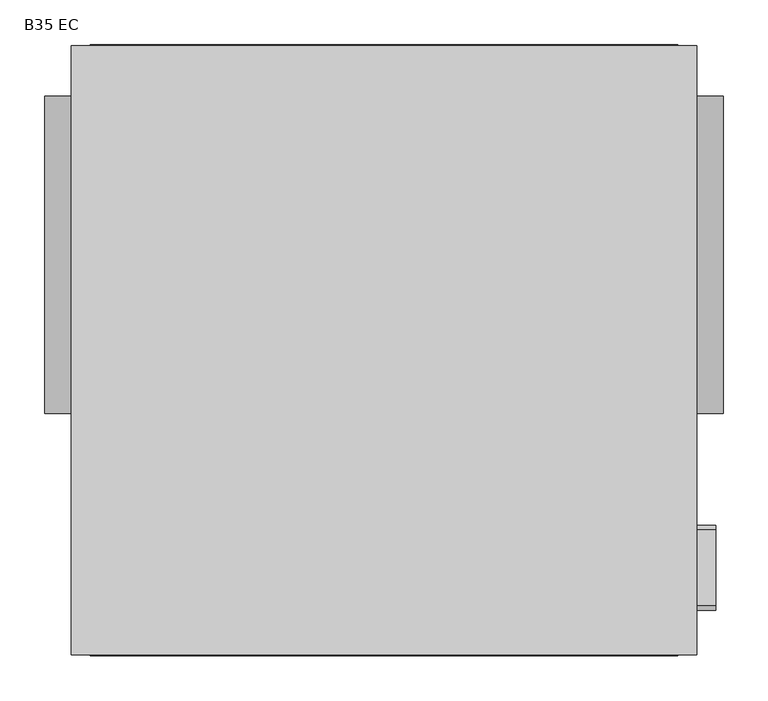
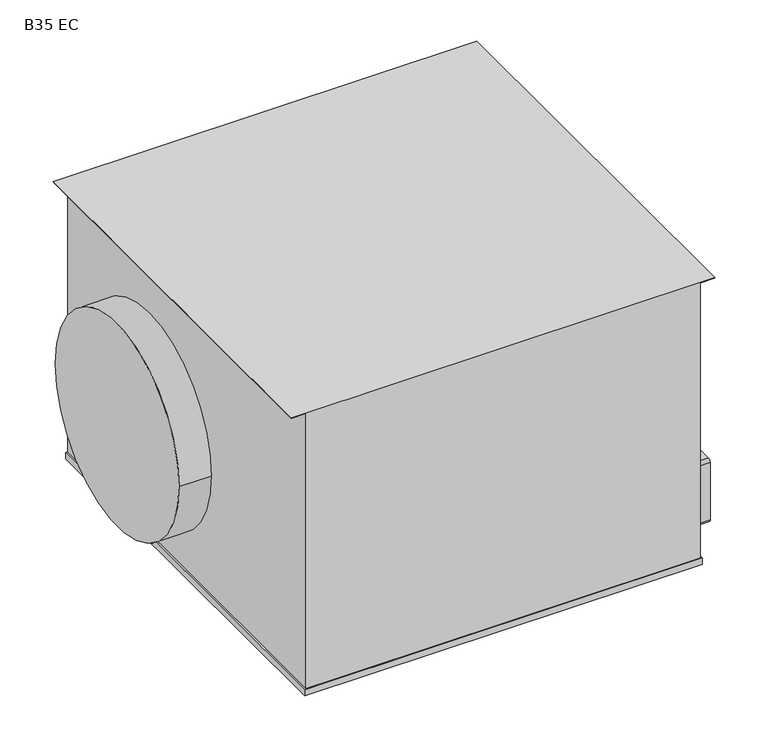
"""IFC4 building model written with IfcOpenShell, lengths in millimetres: unitary equipment geometry, VE-Wentylator-ParaForma-Harmann-SENSOVENT_DUCT_B_EC-Wywiewny : B35 EC."""

import ifcopenshell
import ifcopenshell.guid

model = None  # the IFC model being written
_history = None  # IfcOwnerHistory: only IFC2X3 demands one
_inside = {}  # id of a spatial element -> (the spatial element, [elements in it])
_under = {}  # id of a project, library or spatial element -> (it, [spatial elements below it])
_declared = {}  # id of a project -> (the project, [libraries it declares])
_typed = {}  # id of a type object -> (the type object, [elements of that type])
_made_of = {}  # id of a material, layer set ... -> (it, [elements and type objects made of it])


def new_model(schema):
    """Start an empty IFC model of exactly this schema.

    Asked for "IFC4X3", IfcOpenShell would pick the latest addendum, in which some entities
    have other attributes; the version numbers below select the first issue.
    IFC2X3 requires an IfcOwnerHistory on every rooted entity: one is made here for all.
    """
    global model, _history
    if schema == "IFC4X3":
        model = ifcopenshell.file(schema_version=(4, 3, 0, 0))
    else:
        model = ifcopenshell.file(schema=schema)
    _inside.clear()
    _under.clear()
    _declared.clear()
    _typed.clear()
    _made_of.clear()
    _history = None
    if model.schema == "IFC2X3":
        org = make("IfcOrganization", Name="unknown")
        user = make(
            "IfcPersonAndOrganization",
            ThePerson=make("IfcPerson", FamilyName="unknown"),
            TheOrganization=org,
        )
        app = make(
            "IfcApplication",
            ApplicationDeveloper=org,
            Version="unknown",
            ApplicationFullName="unknown",
            ApplicationIdentifier="unknown",
        )
        _history = make(
            "IfcOwnerHistory",
            OwningUser=user,
            OwningApplication=app,
            ChangeAction="ADDED",
            CreationDate=0,
        )
    return model


def make(cls, **values):
    """One entity of the class cls with the attributes given. An attribute that is None is left unset."""
    return model.create_entity(
        cls, **{name: value for name, value in values.items() if value is not None}
    )


def rooted(cls, **values):
    """An entity with a GlobalId (a new one), such as an element, a storey or a relation."""
    return make(cls, GlobalId=ifcopenshell.guid.new(), OwnerHistory=_history, **values)


def si_unit(unit_type, name, prefix=None):
    """IfcSIUnit, for example si_unit("LENGTHUNIT", "METRE", prefix="MILLI")."""
    return make("IfcSIUnit", UnitType=unit_type, Prefix=prefix, Name=name)


def assignment(units):
    """IfcUnitAssignment: the units of a project."""
    return None if units is None else make("IfcUnitAssignment", Units=units)


def point(xyz):
    """IfcCartesianPoint."""
    return None if xyz is None else make("IfcCartesianPoint", Coordinates=xyz)


def direction(xyz):
    """IfcDirection."""
    return None if xyz is None else make("IfcDirection", DirectionRatios=xyz)


def frame(location, z_axis=None, x_axis=None):
    """IfcAxis2Placement3D, a coordinate frame: its origin and axes. An axis left out is left unset."""
    return make(
        "IfcAxis2Placement3D",
        Location=point(location),
        Axis=direction(z_axis),
        RefDirection=direction(x_axis),
    )


def frame_2d(location, x_axis=None):
    """IfcAxis2Placement2D, a coordinate frame in the plane: its origin and x axis."""
    return make(
        "IfcAxis2Placement2D", Location=point(location), RefDirection=direction(x_axis)
    )


def origin():
    """The frame at (0, 0, 0) with its axes left unset."""
    return frame((0.0, 0.0, 0.0))


def origin_2d():
    """The frame at (0, 0) in the plane with its x axis left unset."""
    return frame_2d((0.0, 0.0))


def place(relative_to, where):
    """IfcLocalPlacement: puts the frame where relative to a parent placement (None: the world)."""
    return make(
        "IfcLocalPlacement", PlacementRelTo=relative_to, RelativePlacement=where
    )


def context(
    kind, dimensions, precision=None, world=None, true_north=None, identifier=None
):
    """IfcGeometricRepresentationContext, for example the 3D "Model" context."""
    return make(
        "IfcGeometricRepresentationContext",
        ContextIdentifier=identifier,
        ContextType=kind,
        CoordinateSpaceDimension=dimensions,
        Precision=precision,
        WorldCoordinateSystem=world,
        TrueNorth=true_north,
    )


def project(units=None, contexts=None):
    """IfcProject with its units and contexts."""
    return rooted(
        "IfcProject",
        Name="project",
        RepresentationContexts=contexts,
        UnitsInContext=assignment(units),
    )


def spatial(cls, under=None, at=None, **own):
    """A site, building, storey or space (cls), placed at a placement, below another one or the project."""
    s = rooted(cls, ObjectPlacement=at, **own)
    if under is not None:
        _under.setdefault(under.id(), (under, []))[1].append(s)
    return s


def polyline(points):
    """IfcPolyline through the points."""
    return make("IfcPolyline", Points=[point(p) for p in points])


def circle_curve(where, radius):
    """IfcCircle in the frame where."""
    return make("IfcCircle", Position=where, Radius=radius)


def trimmed(basis, trim1, trim2, sense, master):
    """IfcTrimmedCurve: the piece of a basis curve between two trims."""
    return make(
        "IfcTrimmedCurve",
        BasisCurve=basis,
        Trim1=trim1,
        Trim2=trim2,
        SenseAgreement=sense,
        MasterRepresentation=master,
    )


def segment(curve, same_sense, transition):
    """IfcCompositeCurveSegment."""
    return make(
        "IfcCompositeCurveSegment",
        Transition=transition,
        SameSense=same_sense,
        ParentCurve=curve,
    )


def composite_curve(segments, self_intersect=None):
    """IfcCompositeCurve: segments joined end to end."""
    return make("IfcCompositeCurve", Segments=segments, SelfIntersect=self_intersect)


def outline(outer, holes=None, kind="AREA"):
    """IfcArbitraryClosedProfileDef: a profile drawn as a closed curve; with holes, ...WithVoids."""
    if holes is None:
        return make("IfcArbitraryClosedProfileDef", ProfileType=kind, OuterCurve=outer)
    return make(
        "IfcArbitraryProfileDefWithVoids",
        ProfileType=kind,
        OuterCurve=outer,
        InnerCurves=holes,
    )


def extrude(swept, where, along, depth):
    """IfcExtrudedAreaSolid: the profile swept, set in the frame where, extruded along a direction by depth."""
    return make(
        "IfcExtrudedAreaSolid",
        SweptArea=swept,
        Position=where,
        ExtrudedDirection=direction(along),
        Depth=depth,
    )


def shape(context_of_items, identifier, shape_type, items):
    """IfcShapeRepresentation: the items that make up one representation, for example the "Body"."""
    return make(
        "IfcShapeRepresentation",
        ContextOfItems=context_of_items,
        RepresentationIdentifier=identifier,
        RepresentationType=shape_type,
        Items=items,
    )


def source(mapping_origin, context_of_items, identifier, shape_type, items):
    """IfcRepresentationMap: a shape defined once, which mapped items show again and again."""
    return make(
        "IfcRepresentationMap",
        MappingOrigin=mapping_origin,
        MappedRepresentation=shape(context_of_items, identifier, shape_type, items),
    )


def transform(
    local_origin,
    x_axis=None,
    y_axis=None,
    z_axis=None,
    scale=None,
    scale2=None,
    scale3=None,
    uniform=True,
):
    """IfcCartesianTransformationOperator3D, or its non-uniform kind. x_axis, y_axis, z_axis: its Axis1, 2, 3."""
    if uniform:
        return make(
            "IfcCartesianTransformationOperator3D",
            Axis1=direction(x_axis),
            Axis2=direction(y_axis),
            LocalOrigin=point(local_origin),
            Scale=scale,
            Axis3=direction(z_axis),
        )
    return make(
        "IfcCartesianTransformationOperator3DnonUniform",
        Axis1=direction(x_axis),
        Axis2=direction(y_axis),
        LocalOrigin=point(local_origin),
        Scale=scale,
        Axis3=direction(z_axis),
        Scale2=scale2,
        Scale3=scale3,
    )


def mapped(mapping_source, mapping_target):
    """IfcMappedItem: shows the shape of a source again, moved by a transform."""
    return make(
        "IfcMappedItem", MappingSource=mapping_source, MappingTarget=mapping_target
    )


def made_of(thing, what):
    """Note that an element or type object is made of a material, layer set ...; save() writes the relation."""
    if what is not None:
        _made_of.setdefault(what.id(), (what, []))[1].append(thing)
    return thing


def element(
    cls,
    number,
    at=None,
    inside=None,
    cuts=None,
    type_object=None,
    material=None,
    context=None,
    identifier="Body",
    shape_type=None,
    held_by="IfcProductDefinitionShape",
    body=None,
    shapes=None,
    **own,
):
    """One element of the class cls, such as IfcWall. Its Tag is "e" and its number.

    at: its placement. inside: the storey or other place that contains it. cuts: it is an
    opening in that element (IfcRelVoidsElement). A single representation is given by context,
    identifier, shape_type and body (its items); several are given by shapes. held_by: the class
    of the entity that holds the representations. save() writes the other relations.
    """
    e = rooted(cls, Tag="e%d" % number, ObjectPlacement=at, **own)
    if body is not None:
        shapes = [shape(context, identifier, shape_type, body)]
    if shapes is not None:
        e.Representation = make(held_by, Representations=shapes)
    if inside is not None:
        _inside.setdefault(inside.id(), (inside, []))[1].append(e)
    if cuts is not None:
        rooted(
            "IfcRelVoidsElement", RelatingBuildingElement=cuts, RelatedOpeningElement=e
        )
    if type_object is not None:
        _typed.setdefault(type_object.id(), (type_object, []))[1].append(e)
    return made_of(e, material)


def aggregate(whole, parts):
    """IfcRelAggregates: a whole, such as a stair, and the parts it consists of."""
    return rooted("IfcRelAggregates", RelatingObject=whole, RelatedObjects=parts)


def save(model, path):
    """Write the relations noted so far, then the file.

    IfcRelAggregates (storeys below a building ...), IfcRelContainedInSpatialStructure (elements
    in a storey), IfcRelDefinesByType, IfcRelAssociatesMaterial and IfcRelDeclares: one each for
    every whole, place, type object, material and project.
    """
    for whole, parts in _under.values():
        aggregate(whole, parts)
    for where, things in _inside.values():
        rooted(
            "IfcRelContainedInSpatialStructure",
            RelatedElements=things,
            RelatingStructure=where,
        )
    for kind, things in _typed.values():
        rooted("IfcRelDefinesByType", RelatedObjects=things, RelatingType=kind)
    for what, things in _made_of.values():
        rooted("IfcRelAssociatesMaterial", RelatedObjects=things, RelatingMaterial=what)
    for by, libraries in _declared.values():
        rooted("IfcRelDeclares", RelatingContext=by, RelatedDefinitions=libraries)
    model.write(path)


def b35_ec_fa7ab7a6(model_context):
    return source(origin(), model_context, "Body", "SweptSolid", [
        extrude(outline(composite_curve([segment(trimmed(circle_curve(frame_2d((-391.9, -187.1)), 5.0), [point((-391.9, -192.1))], [point((-396.9, -187.1))], False, "CARTESIAN"), True, "CONTINUOUS"), segment(polyline([(-396.9, -187.1), (-396.9, -87.1)]), True, "CONTINUOUS"), segment(trimmed(circle_curve(frame_2d((-391.9, -87.1)), 5.0), [point((-396.9, -87.1))], [point((-391.9, -82.1))], False, "CARTESIAN"), True, "CONTINUOUS"), segment(polyline([(-391.9, -82.1), (-306.9, -82.1)]), True, "CONTINUOUS"), segment(trimmed(circle_curve(frame_2d((-306.9, -87.1)), 5.0), [point((-306.9, -82.1))], [point((-301.9, -87.1))], False, "CARTESIAN"), True, "CONTINUOUS"), segment(polyline([(-301.9, -87.1), (-301.9, -187.1)]), True, "CONTINUOUS"), segment(trimmed(circle_curve(frame_2d((-306.9, -187.1)), 5.0), [point((-301.9, -187.1))], [point((-306.9, -192.1))], False, "CARTESIAN"), True, "CONTINUOUS"), segment(polyline([(-306.9, -192.1), (-391.9, -192.1)]), True, "CONTINUOUS")], self_intersect=False)), frame((325.0, 0.0, 0.0), z_axis=(1.0, 0.0, 0.0), x_axis=(0.0, 1.0, 0.0)), (0.0, 0.0, 1.0), 45.0),
        extrude(outline(polyline([(-327.9, -447.6), (-327.9, 234.6), (327.9, 234.6), (327.9, -447.6), (-327.9, -447.6)])), frame((0.0, 0.0, -218.8), z_axis=(0.0, 0.0, 1.0), x_axis=(1.0, 0.0, 0.0)), (0.0, 0.0, 1.0), 10.8),
        extrude(outline(polyline([(273.0, -349.0), (272.0, -349.0), (272.0, -325.0), (-208.0, -325.0), (-208.0, 325.0), (272.0, 325.0), (272.0, 349.0), (273.0, 349.0), (273.0, -349.0)])), frame((0.0, -446.5, 0.0), z_axis=(0.0, 1.0, 0.0), x_axis=(0.0, 0.0, 1.0)), (0.0, 0.0, 1.0), 680.0),
        extrude(outline(composite_curve([segment(trimmed(circle_curve(origin_2d(), 177.0), [point((-177.0, 0.0))], [point((177.0, 0.0))], False, "CARTESIAN"), True, "CONTINUOUS"), segment(trimmed(circle_curve(origin_2d(), 177.0), [point((177.0, 0.0))], [point((-177.0, 0.0))], False, "CARTESIAN"), True, "CONTINUOUS")], self_intersect=False)), frame((325.0, 0.0, 0.0), z_axis=(1.0, 0.0, 0.0), x_axis=(0.0, 1.0, 0.0)), (0.0, 0.0, 1.0), 53.5),
        extrude(outline(composite_curve([segment(trimmed(circle_curve(origin_2d(), 177.0), [point((-177.0, 0.0))], [point((177.0, 0.0))], False, "CARTESIAN"), True, "CONTINUOUS"), segment(trimmed(circle_curve(origin_2d(), 177.0), [point((177.0, 0.0))], [point((-177.0, 0.0))], False, "CARTESIAN"), True, "CONTINUOUS")], self_intersect=False)), frame((-378.5, 0.0, 0.0), z_axis=(1.0, 0.0, 0.0), x_axis=(0.0, 1.0, 0.0)), (0.0, 0.0, 1.0), 53.5),
    ])


if __name__ == "__main__":
    model = new_model("IFC4")
    model_context = context("Model", 3, world=origin())
    ifc_project = project(units=[si_unit("LENGTHUNIT", "METRE", prefix="MILLI")], contexts=[model_context])
    site = spatial("IfcSite", under=ifc_project)
    building = spatial("IfcBuilding", under=site)
    placement = place(None, origin())
    b35_ec_shape = b35_ec_fa7ab7a6(model_context)
    element("IfcUnitaryEquipment", 1, ObjectType="VE-Wentylator-ParaForma-Harmann-SENSOVENT_DUCT_B_EC-Wywiewny : B35 EC", at=placement, inside=building, context=model_context, shape_type="MappedRepresentation", body=[
        mapped(b35_ec_shape, transform((0.0, 0.0, 0.0), x_axis=(1.0, 0.0, 0.0), y_axis=(0.0, 1.0, 0.0), z_axis=(0.0, 0.0, 1.0))),
    ])
    save(model, "model.ifc")
